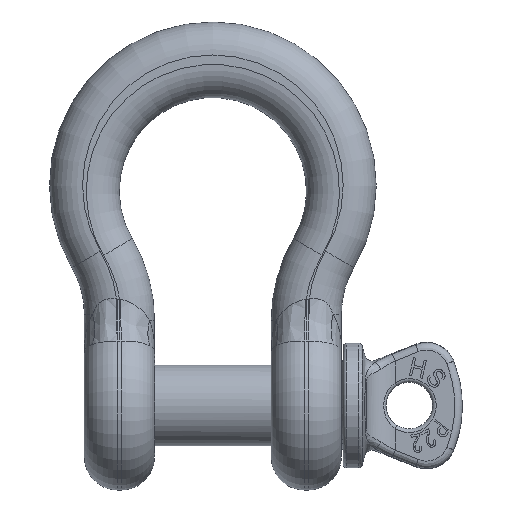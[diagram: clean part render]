
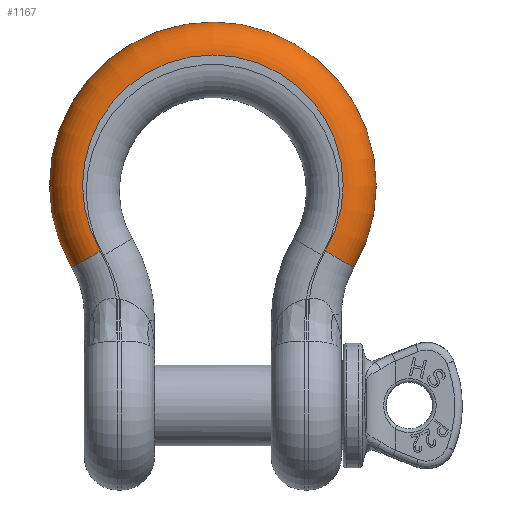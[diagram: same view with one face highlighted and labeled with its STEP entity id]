
A CAD part, top view. The second image highlights one B-rep face of the part: STEP entity #1167.
In plain terms, the highlighted toroidal (fillet/blend) face has major radius 35.5 mm and minor radius 9 mm.
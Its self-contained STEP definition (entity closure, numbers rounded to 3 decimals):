
#387=TOROIDAL_SURFACE('',#10085,35.5,9.);
#633=FACE_OUTER_BOUND('',#2259,.T.);
#1167=ADVANCED_FACE('',(#633),#387,.T.);
#1833=CIRCLE('',#10013,35.5);
#1839=CIRCLE('',#10023,44.5);
#1867=CIRCLE('',#10082,9.);
#1868=CIRCLE('',#10084,9.);
#2259=EDGE_LOOP('',(#5167,#5168,#5169,#5170));
#5167=ORIENTED_EDGE('',*,*,#8368,.T.);
#5168=ORIENTED_EDGE('',*,*,#8285,.F.);
#5169=ORIENTED_EDGE('',*,*,#8369,.F.);
#5170=ORIENTED_EDGE('',*,*,#8271,.F.);
#7119=VERTEX_POINT('',#18654);
#7120=VERTEX_POINT('',#18656);
#7127=VERTEX_POINT('',#18693);
#7128=VERTEX_POINT('',#18698);
#8271=EDGE_CURVE('',#7119,#7120,#1833,.T.);
#8285=EDGE_CURVE('',#7128,#7127,#1839,.T.);
#8368=EDGE_CURVE('',#7119,#7127,#1867,.T.);
#8369=EDGE_CURVE('',#7120,#7128,#1868,.T.);
#10013=AXIS2_PLACEMENT_3D('',#18655,#11187,#11188);
#10023=AXIS2_PLACEMENT_3D('',#18699,#11212,#11213);
#10082=AXIS2_PLACEMENT_3D('',#20283,#11346,#11347);
#10084=AXIS2_PLACEMENT_3D('',#20285,#11350,#11351);
#10085=AXIS2_PLACEMENT_3D('',#20286,#11352,#11353);
#11187=DIRECTION('',(0.,0.,1.));
#11188=DIRECTION('',(-1.,0.,0.));
#11212=DIRECTION('',(0.,0.,-1.));
#11213=DIRECTION('',(-1.,0.,0.));
#11346=DIRECTION('',(0.505,0.863,0.));
#11347=DIRECTION('',(-0.863,0.505,0.));
#11350=DIRECTION('',(0.505,-0.863,0.));
#11351=DIRECTION('',(0.863,0.505,0.));
#11352=DIRECTION('',(0.,0.,-1.));
#11353=DIRECTION('',(-1.,0.,0.));
#18654=CARTESIAN_POINT('',(30.647,-17.916,9.55));
#18655=CARTESIAN_POINT('',(0.,0.,9.55));
#18656=CARTESIAN_POINT('',(-30.647,-17.916,9.55));
#18693=CARTESIAN_POINT('',(38.417,-22.458,0.55));
#18698=CARTESIAN_POINT('',(-38.417,-22.458,0.55));
#18699=CARTESIAN_POINT('',(0.,0.,0.55));
#20283=CARTESIAN_POINT('',(30.647,-17.916,0.55));
#20285=CARTESIAN_POINT('',(-30.647,-17.916,0.55));
#20286=CARTESIAN_POINT('',(0.,0.,0.55));
